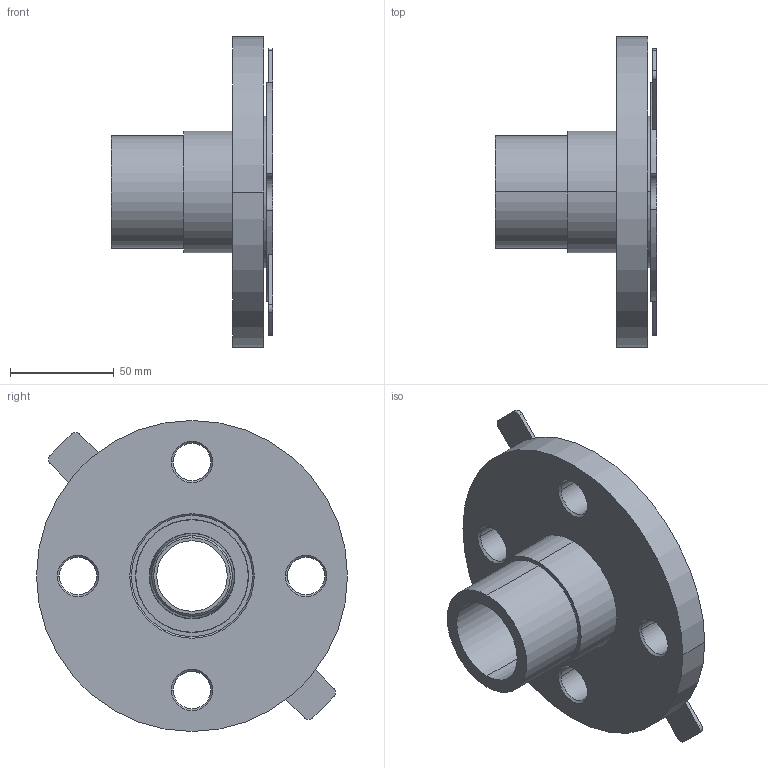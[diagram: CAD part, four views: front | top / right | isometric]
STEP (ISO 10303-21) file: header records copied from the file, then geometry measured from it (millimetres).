
FILE_DESCRIPTION (( 'STEP AP214' ), '1' );
FILE_NAME ('KP_C20-54.STEP', '2011-09-22T05:35:44', ( 'robinj' ), ( 'Microsoft' ), 'SwSTEP 2.0', 'SolidWorks 2011', '' );
FILE_SCHEMA (( 'AUTOMOTIVE_DESIGN' ));
Length unit declared in the file: millimetre
Products named in the file (1): KP_C20-54
Bounding box: 78 x 150 x 150 mm (x, y, z)
Volume: 331253.2 mm3; surface area: 105867.6 mm2
Topology: 3 solids, 3 shells, 97 faces, 223 edges, 140 vertices
Faces by surface type: cylinder 47, plane 22, cone 20, torus 8
Entity records: 2920 total; most frequent: DIRECTION 555, CARTESIAN_POINT 461, ORIENTED_EDGE 446, AXIS2_PLACEMENT_3D 234, EDGE_CURVE 223, VERTEX_POINT 140, CIRCLE 136, EDGE_LOOP 119
